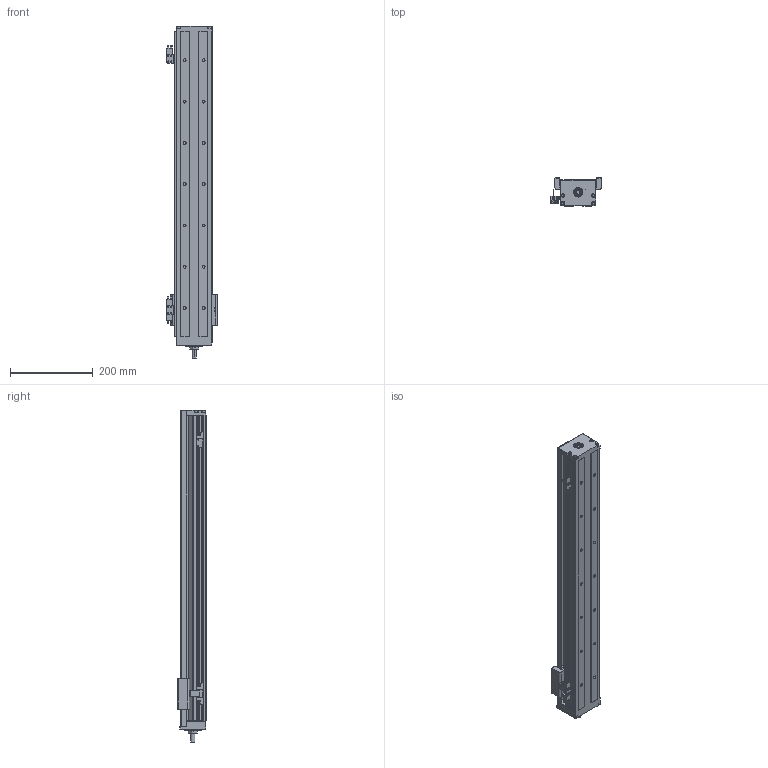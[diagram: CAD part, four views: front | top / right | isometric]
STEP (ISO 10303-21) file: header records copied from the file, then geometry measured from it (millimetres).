
FILE_DESCRIPTION (( 'STEP AP214' ), '1' );
FILE_NAME ('KK86-740A1-H0DS2.STEP', '2023-04-04T05:44:59', ( '微软用户' ), ( '微软中国' ), 'SwSTEP 2.0', 'SolidWorks 2018', '' );
FILE_SCHEMA (( 'AUTOMOTIVE_DESIGN' ));
Length unit declared in the file: millimetre
Products named in the file (11): KK-86-CU-740祥凄詩裔啣_740; SFKK86-H0_KKR86-ZT-P-740; KK-86-FS 準梓嘐隅す怢; SX674嫖萇羲壽; SFKK86-A1; KK86-S2-S2準梓覜茼え; KK86-耜啣_740; 极限轨道与开关固定座组合_740; KK86-740A1-H0DS2; 开关固定座：KK-674S2-F; SFKK86-LR 憤癹寢耋_740
Assembly tree (14 placements, depth 3):
  KK86-740A1-H0DS2
    SFKK86-H0_KKR86-ZT-P-740
    SFKK86-A1
    极限轨道与开关固定座组合_740
      SFKK86-LR 憤癹寢耋_740
      开关固定座：KK-674S2-F  x2
    SX674嫖萇羲壽  x3
    KK-86-FS 準梓嘐隅す怢
    KK-86-CU-740祥凄詩裔啣_740
    KK86-耜啣_740  x2
    KK86-S2-S2準梓覜茼え
Bounding box: 122.25 x 68 x 804 mm (x, y, z)
Volume: 1732662.2 mm3; surface area: 704439.8 mm2
Topology: 30 solids, 30 shells, 1666 faces, 4287 edges, 2690 vertices
Faces by surface type: plane 807, cylinder 601, cone 192, torus 43, sphere 15, bspline 8
Entity records: 56587 total; most frequent: CARTESIAN_POINT 13402, DIRECTION 7941, ORIENTED_EDGE 7628, EDGE_CURVE 3814, AXIS2_PLACEMENT_3D 2795, VERTEX_POINT 2440, LINE 2351, VECTOR 2351
